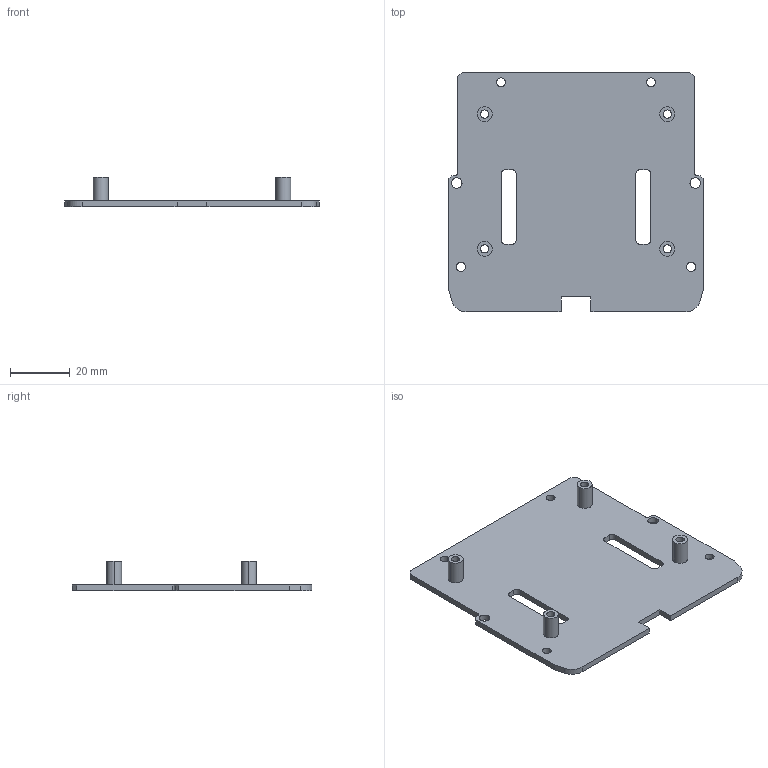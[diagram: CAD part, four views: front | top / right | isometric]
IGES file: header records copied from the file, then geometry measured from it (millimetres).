
Global section: file name: Filename.iges; native system: Open CASCADE 7.5; preprocessor: Open CASCADE IGES processor 7.5; date: 20210414.165554; units: millimetre
Bounding box: 85 x 80 x 10 mm (x, y, z)
Surface area: 14262.7 mm2 (no closed solid volume)
Topology: 0 solids, 0 shells, 72 faces, 396 edges, 396 vertices
Faces by surface type: revolution 40, bspline 32
